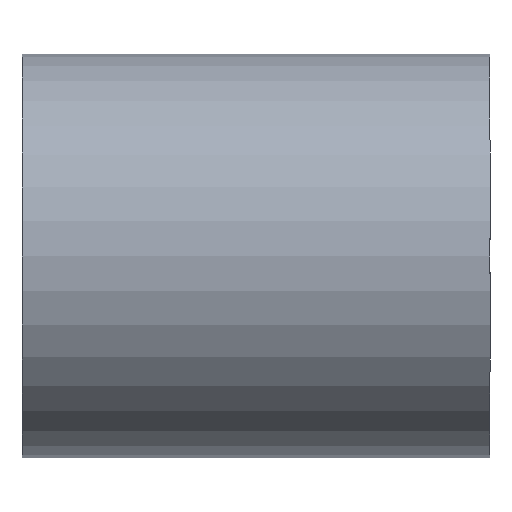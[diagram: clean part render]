
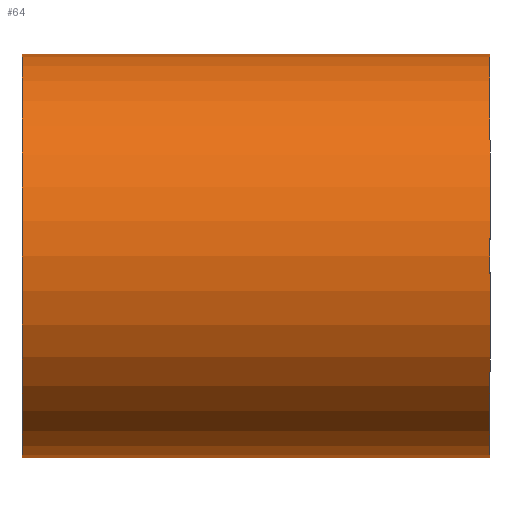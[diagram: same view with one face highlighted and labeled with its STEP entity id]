
A CAD part, front view. The second image highlights one B-rep face of the part: STEP entity #64.
In plain terms, the highlighted cylindrical face has radius 24.15 mm (diameter 48.3 mm), a full revolution.
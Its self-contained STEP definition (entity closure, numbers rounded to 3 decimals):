
#21=FACE_OUTER_BOUND('',#27,.T.);
#27=EDGE_LOOP('',(#54,#55,#56,#57));
#31=LINE('',#134,#33);
#33=VECTOR('',#116,24.15);
#36=CIRCLE('',#94,24.15);
#37=CIRCLE('',#96,24.15);
#40=VERTEX_POINT('',#129);
#41=VERTEX_POINT('',#132);
#45=EDGE_CURVE('',#40,#40,#36,.T.);
#46=EDGE_CURVE('',#41,#41,#37,.T.);
#47=EDGE_CURVE('',#41,#40,#31,.T.);
#54=ORIENTED_EDGE('',*,*,#46,.F.);
#55=ORIENTED_EDGE('',*,*,#47,.T.);
#56=ORIENTED_EDGE('',*,*,#45,.T.);
#57=ORIENTED_EDGE('',*,*,#47,.F.);
#61=CYLINDRICAL_SURFACE('',#95,24.15);
#64=ADVANCED_FACE('',(#21),#61,.T.);
#94=AXIS2_PLACEMENT_3D('',#130,#110,#111);
#95=AXIS2_PLACEMENT_3D('',#131,#112,#113);
#96=AXIS2_PLACEMENT_3D('',#133,#114,#115);
#110=DIRECTION('center_axis',(-1.,0.,0.));
#111=DIRECTION('ref_axis',(0.,0.,1.));
#112=DIRECTION('center_axis',(-1.,0.,0.));
#113=DIRECTION('ref_axis',(0.,1.,0.));
#114=DIRECTION('center_axis',(-1.,0.,0.));
#115=DIRECTION('ref_axis',(0.,0.,1.));
#116=DIRECTION('',(1.,0.,0.));
#129=CARTESIAN_POINT('',(56.,-24.15,0.));
#130=CARTESIAN_POINT('Origin',(56.,0.,0.));
#131=CARTESIAN_POINT('Origin',(28.,0.,0.));
#132=CARTESIAN_POINT('',(0.,-24.15,0.));
#133=CARTESIAN_POINT('Origin',(0.,0.,
0.));
#134=CARTESIAN_POINT('',(28.,-24.15,0.));
